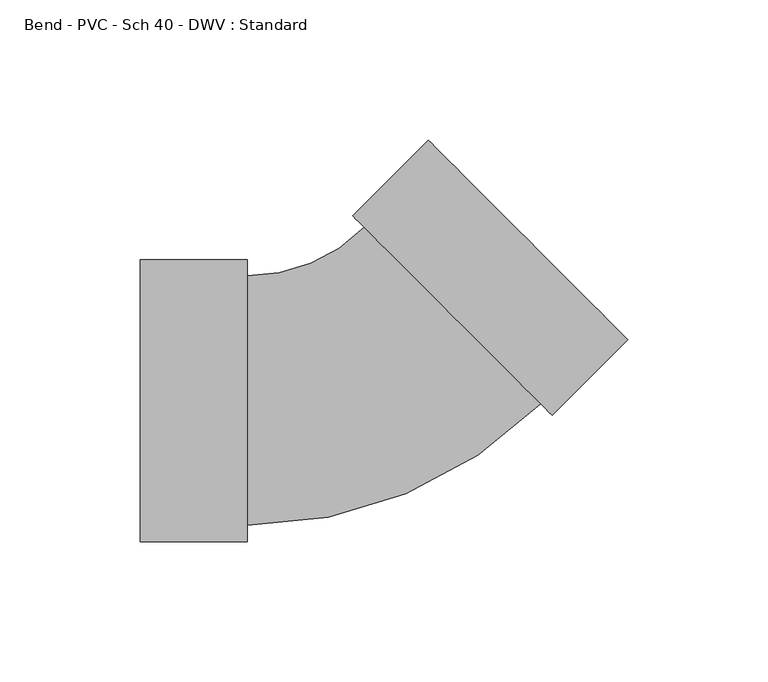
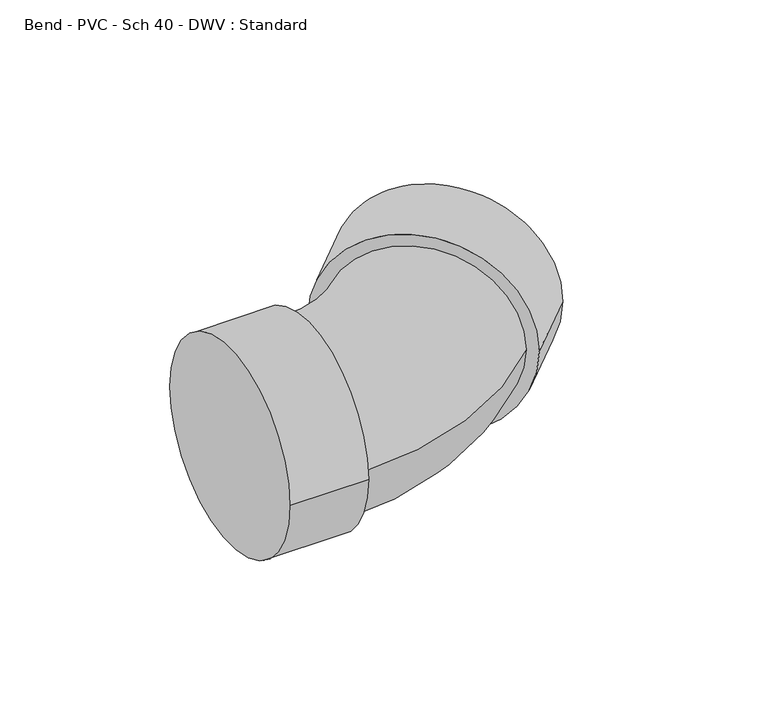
"""IFC4 building model written with IfcOpenShell, lengths in millimetres: pipe fitting geometry, Bend - PVC - Sch 40 - DWV : Standard."""

from ifc_helpers import new_model, si_unit, point, frame, origin, place, context, project, spatial, circle_curve, ellipse_curve, trimmed, source, transform, mapped, element, save
from ifc_brep_helpers import plane_surface, cylinder_surface, revolved_surface, advanced_brep


def bend_pvc_sch_40_dwv_standard_dbf24498(model_context):
    return source(origin(), model_context, "Body", "AdvancedBrep", [
        advanced_brep(
        [(-80.9752, -50.2666, 0.0), (-80.9752, 50.2666, 0.0), (-42.8752, -50.2666, 0.0), (-42.8752, 50.2666, 0.0), (-42.8752, -44.45, 0.0), (-42.8752, 44.45, 0.0), (-1.1135604, 61.7482409, 0.0), (61.7482412, -1.1135431, 0.0), (65.8611991, -5.2264998, 0.0), (-5.2265183, 65.8611977, 0.0), (92.8019637, 21.7142723, 0.0), (21.7142463, 92.8019698, 0.0)],
        [
            (0, 1, circle_curve(frame((-80.9752, 0.0, 0.0), z_axis=(-1.0, 0.0, 0.0), x_axis=(0.0, 1.0, 0.0)), 50.2666)),
            (1, 0, circle_curve(frame((-80.9752, 0.0, 0.0), z_axis=(-1.0, 0.0, 0.0), x_axis=(0.0, 1.0, 0.0)), 50.2666)),
            (2, 3, circle_curve(frame((-42.8752, 0.0, 0.0), z_axis=(1.0, 0.0, 0.0), x_axis=(0.0, 1.0, 0.0)), 50.2666)),
            (3, 2, circle_curve(frame((-42.8752, 0.0, 0.0), z_axis=(1.0, 0.0, 0.0), x_axis=(0.0, 1.0, 0.0)), 50.2666)),
            (4, 5, circle_curve(frame((-42.8752, 0.0, 0.0), z_axis=(-1.0, 0.0, 0.0), x_axis=(0.0, 1.0, 0.0)), 44.45)),
            (5, 4, circle_curve(frame((-42.8752, 0.0, 0.0), z_axis=(-1.0, 0.0, 0.0), x_axis=(0.0, 1.0, 0.0)), 44.45)),
            (0, 2),
            (3, 1),
            (6, 5, circle_curve(frame((-42.8752, 103.5098688, 0.0), z_axis=(0.0, 0.0, -1.0), x_axis=(0.0, -1.0, 0.0)), 59.0598688)),
            (4, 7, circle_curve(frame((-42.8752, 103.5098688, 0.0), z_axis=(0.0, 0.0, 1.0), x_axis=(0.0, -1.0, 0.0)), 147.9598688)),
            (7, 6, circle_curve(frame((30.3173404, 30.3173489, 0.0), z_axis=(-0.7071066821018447, -0.7071068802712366, 0.0), x_axis=(-0.7071068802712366, 0.7071066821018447, 0.0)), 44.45)),
            (6, 7, circle_curve(frame((30.3173404, 30.3173489, 0.0), z_axis=(-0.7071066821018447, -0.7071068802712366, 0.0), x_axis=(-0.7071068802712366, 0.7071066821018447, 0.0)), 44.45)),
            (8, 9, circle_curve(frame((30.3173404, 30.3173489, 0.0), z_axis=(-0.7071066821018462, -0.707106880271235, 0.0), x_axis=(-0.707106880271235, 0.7071066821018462, 0.0)), 50.2666)),
            (9, 8, circle_curve(frame((30.3173404, 30.3173489, 0.0), z_axis=(-0.7071066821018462, -0.707106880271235, 0.0), x_axis=(-0.707106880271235, 0.7071066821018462, 0.0)), 50.2666)),
            (10, 11, circle_curve(frame((57.258105, 57.2581211, 0.0), z_axis=(0.7071066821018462, 0.707106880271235, 0.0), x_axis=(-0.707106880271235, 0.7071066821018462, 0.0)), 50.2666)),
            (11, 10, circle_curve(frame((57.258105, 57.2581211, 0.0), z_axis=(0.7071066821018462, 0.707106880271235, 0.0), x_axis=(-0.707106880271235, 0.7071066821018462, 0.0)), 50.2666)),
            (8, 10),
            (11, 9),
        ],
        [
            plane_surface(frame((-80.9752, 0.0, 0.0), z_axis=(-1.0, 0.0, 0.0), x_axis=(0.0, 0.0, 1.0))),
            plane_surface(frame((-42.8752, 0.0, 0.0), z_axis=(1.0, 0.0, 0.0), x_axis=(0.0, 0.0, 1.0))),
            cylinder_surface(frame((-80.9752, 0.0, 0.0), z_axis=(-1.0, 0.0, 0.0), x_axis=(0.0, 1.0, 0.0)), 50.2666),
            revolved_surface(trimmed(ellipse_curve(frame((-42.8752, 0.0, 0.0), z_axis=(-1.0, 0.0, 0.0), x_axis=(0.0, 1.0, 0.0)), 44.45, 44.45), [point((-42.8752, -44.45, 0.0))], [point((-42.8752, 44.45, 0.0))], True, "CARTESIAN"), (-42.8752, 103.5098688, 0.0), (0.0, 0.0, 1.0)),
            revolved_surface(trimmed(ellipse_curve(frame((-42.8752, 0.0, 0.0), z_axis=(-1.0, 0.0, 0.0), x_axis=(0.0, 1.0, 0.0)), 44.45, 44.45), [point((-42.8752, 44.45, 0.0))], [point((-42.8752, -44.45, 0.0))], True, "CARTESIAN"), (-42.8752, 103.5098688, 0.0), (0.0, 0.0, 1.0)),
            plane_surface(frame((30.3173404, 30.3173489, 0.0), z_axis=(-0.7071066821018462, -0.707106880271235, 0.0), x_axis=(0.0, 0.0, 1.0))),
            plane_surface(frame((57.258105, 57.2581211, 0.0), z_axis=(0.7071066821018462, 0.707106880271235, 0.0), x_axis=(0.0, 0.0, 1.0))),
            cylinder_surface(frame((30.3173404, 30.3173489, 0.0), z_axis=(-0.7071066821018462, -0.707106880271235, 0.0), x_axis=(-0.707106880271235, 0.7071066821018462, 0.0)), 50.2666),
        ],
        [
            (0, [[1, 2]]),
            (1, [[3, 4], [5, 6]]),
            (2, [[-1, 7, -4, 8]]),
            (2, [[-2, -8, -3, -7]]),
            (3, [[9, -5, 10, 11]]),
            (4, [[-9, 12, -10, -6]]),
            (5, [[13, 14], [-11, -12]]),
            (6, [[15, 16]]),
            (7, [[-13, 17, -16, 18]]),
            (7, [[-14, -18, -15, -17]]),
        ],
    ),
    ])


if __name__ == "__main__":
    model = new_model("IFC4")
    model_context = context("Model", 3, world=origin())
    ifc_project = project(units=[si_unit("LENGTHUNIT", "METRE", prefix="MILLI")], contexts=[model_context])
    site = spatial("IfcSite", under=ifc_project)
    building = spatial("IfcBuilding", under=site)
    placement = place(None, origin())
    bend_pvc_sch_40_dwv_standard_shape = bend_pvc_sch_40_dwv_standard_dbf24498(model_context)
    element("IfcPipeFitting", 1, ObjectType="Bend - PVC - Sch 40 - DWV : Standard", at=placement, inside=building, context=model_context, shape_type="MappedRepresentation", body=[
        mapped(bend_pvc_sch_40_dwv_standard_shape, transform((0.0, 0.0, 0.0), x_axis=(1.0, 0.0, 0.0), y_axis=(0.0, 1.0, 0.0), z_axis=(0.0, 0.0, 1.0))),
    ])
    save(model, "model.ifc")
